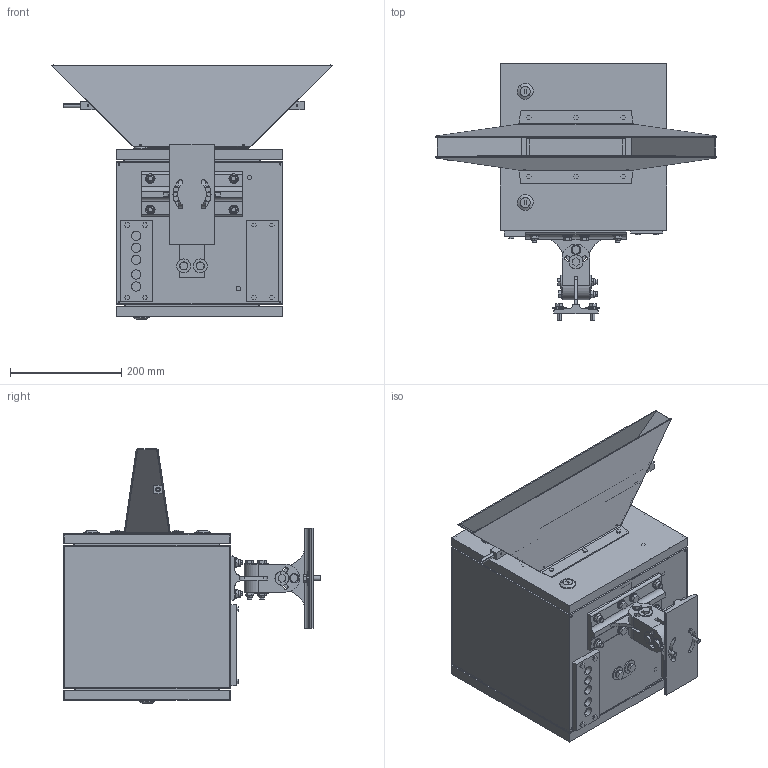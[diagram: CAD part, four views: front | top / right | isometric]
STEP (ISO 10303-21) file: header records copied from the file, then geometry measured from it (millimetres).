
FILE_DESCRIPTION((''),'2;1');
FILE_NAME('SYSPHSS','2010-07-14T',('SRambau'),(''),'PRO/ENGINEER BY PARAMETRIC TECHNOLOGY CORPORATION, 2006460','PRO/ENGINEER BY PARAMETRIC TECHNOLOGY CORPORATION, 2006460','');
FILE_SCHEMA(('CONFIG_CONTROL_DESIGN'));
Products named in the file (1): SYSPHSS
Bounding box: 506 x 462.4 x 457.91 mm (x, y, z)
Volume: 2735982.4 mm3; surface area: 1824758.7 mm2
Topology: 6 solids, 6 shells, 1928 faces, 4781 edges, 3024 vertices
Faces by surface type: plane 1191, cylinder 601, cone 66, torus 52, sphere 18
Entity records: 66461 total; most frequent: CARTESIAN_POINT 19444, DIRECTION 9931, ORIENTED_EDGE 9526, EDGE_CURVE 4763, AXIS2_PLACEMENT_3D 3466, VERTEX_POINT 3025, VECTOR 2999, LINE 2999
